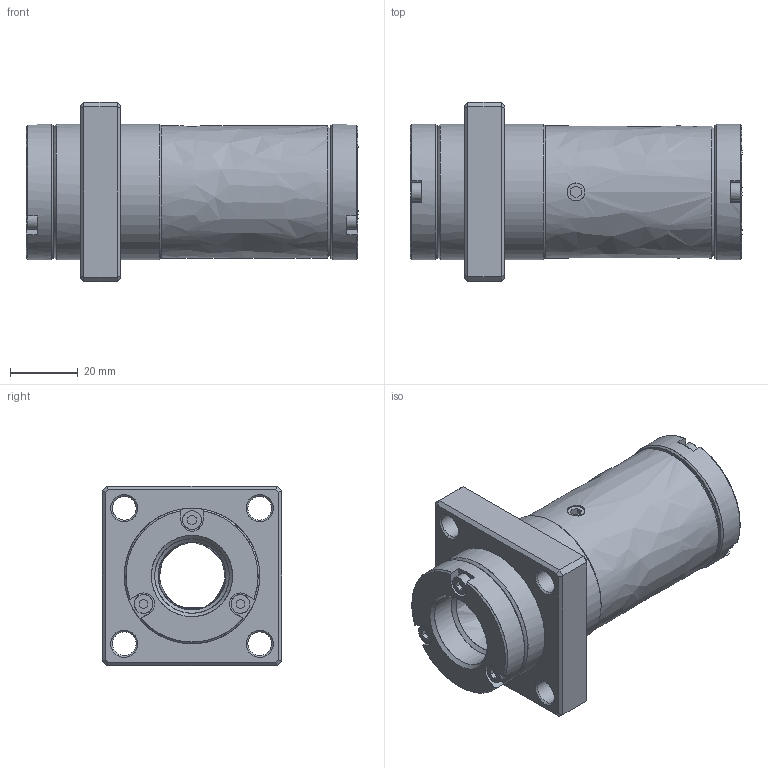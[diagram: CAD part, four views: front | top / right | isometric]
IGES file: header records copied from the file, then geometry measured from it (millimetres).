
Start section: Missler Software 3 rue Hermes, EUROPARC, 31520 Ramonville-Saint-Agne, France Tel   : +33 (0)5 61 00 03 00 Fax   : +33 (0)5 61 00 03 03 Email : sup.solid@topsolid.com
Global section: file name: \\192.168.1.1\share\s-4 技術開発\s-4-4_CAD\s-4-4-3_見直し済み\009 修正済み\LCF-B-K\LCF-20BUU-Ｋ.igs; native system: TopSolid v611216 Missler Software; preprocessor: IGES preprocessor v100000; author: yu; organization: コダマコーポレーション株式会社,10,7,13H220203; date: 220203.170828; units: millimetre
Bounding box: 98 x 53 x 53 mm (x, y, z)
Surface area: 25857.4 mm2 (no closed solid volume)
Topology: 0 solids, 0 shells, 156 faces, 1539 edges, 1518 vertices
Faces by surface type: bspline 156
